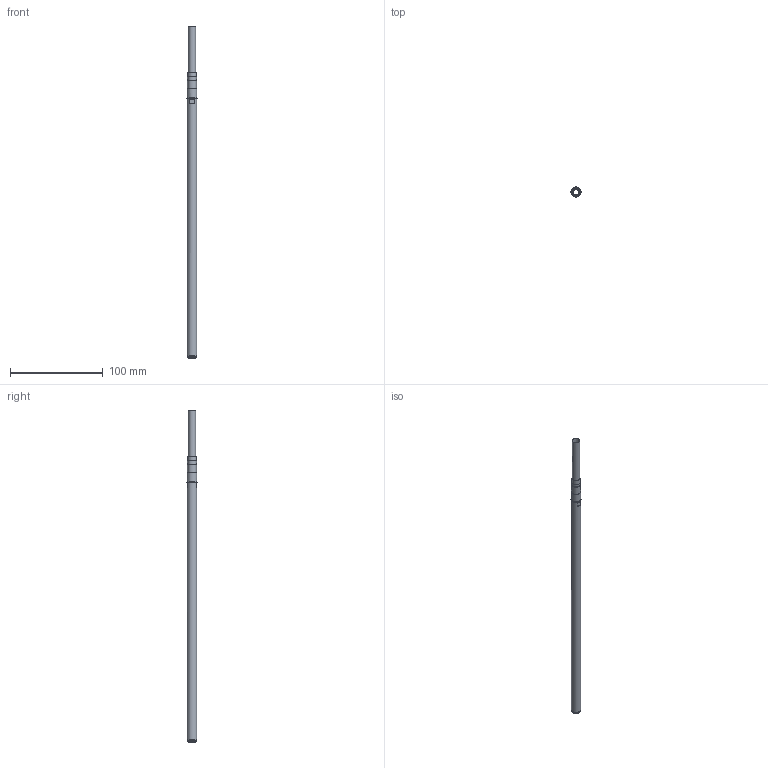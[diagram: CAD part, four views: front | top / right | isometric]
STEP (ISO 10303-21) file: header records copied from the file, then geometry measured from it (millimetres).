
FILE_DESCRIPTION(('STEP AP214'),'1');
FILE_NAME('LC-10P300-CON SEDE.stp','2025-10-28T12:40:30',(' '),(' '),'Spatial InterOp 3D',' ',' ');
FILE_SCHEMA(('AUTOMOTIVE_DESIGN { 1 0 10303 214 1 1 1 1 }'));
Length unit declared in the file: metre
Products named in the file (3): LC-10P300; LC-10P300-SEDE
Bounding box: 11 x 11 x 357.75 mm (x, y, z)
Volume: 14998.5 mm3; surface area: 17528.5 mm2
Topology: 1 solids, 3 shells, 23 faces, 51 edges, 35 vertices
Faces by surface type: plane 10, cylinder 7, cone 4, torus 2
Full cylindrical faces by diameter (mm): 6 x1, 8 x1, 8.8 x1, 9.8 x1, 10 x2
Entity records: 919 total; most frequent: DIRECTION 110, CARTESIAN_POINT 89, ORIENTED_EDGE 60, AXIS2_PLACEMENT_3D 50, STYLED_ITEM 49, PRESENTATION_STYLE_ASSIGNMENT 49, COLOUR_RGB 49, EDGE_LOOP 41
